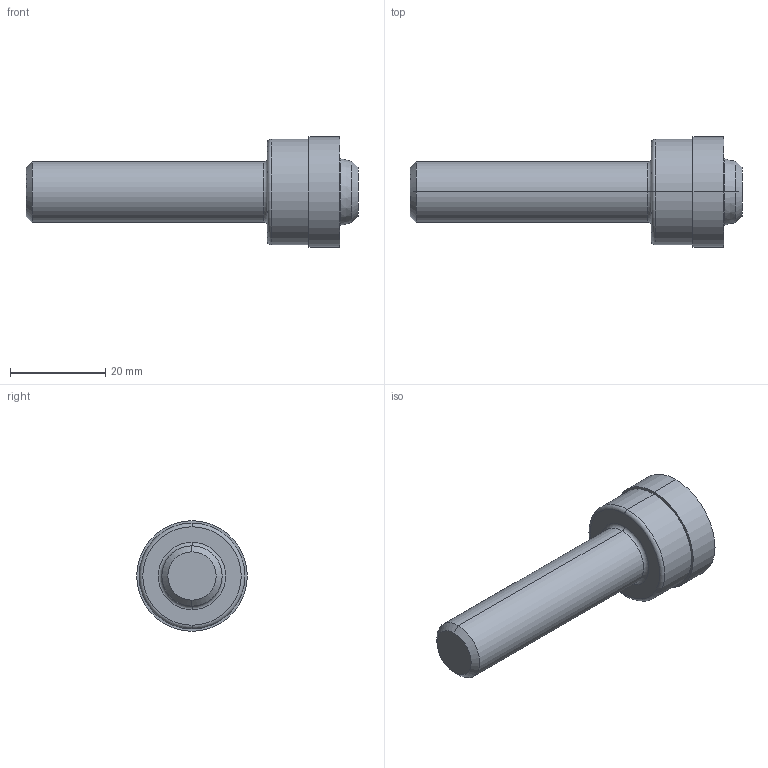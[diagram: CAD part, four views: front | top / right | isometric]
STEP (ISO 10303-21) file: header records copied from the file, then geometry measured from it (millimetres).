
FILE_DESCRIPTION (( 'STEP AP214' ), '1' );
FILE_NAME ('SAEJ1926-05X.STEP', '2023-11-07T17:23:19', ( '' ), ( '' ), 'SwSTEP 2.0', 'SolidWorks 2022', '' );
FILE_SCHEMA (( 'AUTOMOTIVE_DESIGN' ));
Length unit declared in the file: inch
Products named in the file (1): SAEJ1926-05X
Bounding box: 69.85 x 23.27 x 23.27 mm (x, y, z)
Volume: 13048.5 mm3; surface area: 3998.4 mm2
Topology: 1 solids, 1 shells, 23 faces, 44 edges, 26 vertices
Faces by surface type: cone 6, cylinder 6, torus 6, plane 5
Entity records: 630 total; most frequent: DIRECTION 124, CARTESIAN_POINT 94, ORIENTED_EDGE 88, AXIS2_PLACEMENT_3D 56, EDGE_CURVE 44, CIRCLE 32, EDGE_LOOP 26, VERTEX_POINT 26
